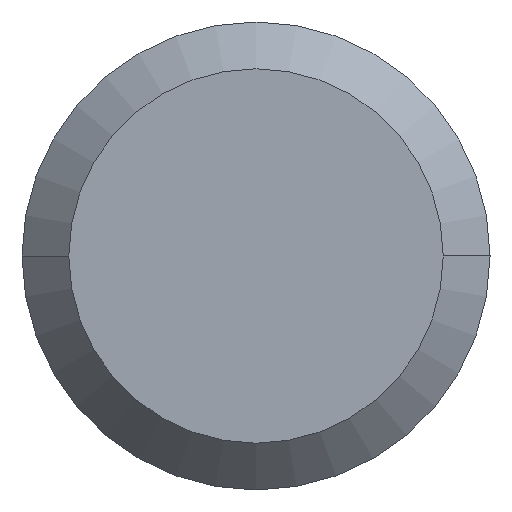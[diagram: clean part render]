
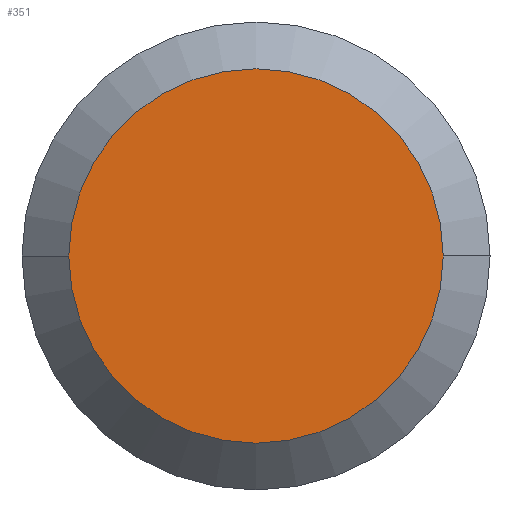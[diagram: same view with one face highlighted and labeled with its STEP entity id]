
A CAD part, left-side view. The second image highlights one B-rep face of the part: STEP entity #351.
In plain terms, the highlighted planar face has unit normal (-1, 0, 0).
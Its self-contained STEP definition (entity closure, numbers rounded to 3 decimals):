
#1 = CARTESIAN_POINT ( 'NONE',  ( 0., 0., 0. ) ) ;
#46 = FACE_OUTER_BOUND ( 'NONE', #212, .T. ) ;
#60 = DIRECTION ( 'NONE',  ( 0., -1., 0. ) ) ;
#77 = ORIENTED_EDGE ( 'NONE', *, *, #80, .F. ) ;
#80 = EDGE_CURVE ( 'NONE', #263, #175, #110, .T. ) ;
#86 = DIRECTION ( 'NONE',  ( -1., 0., 0. ) ) ;
#88 = DIRECTION ( 'NONE',  ( 0., 1., 0. ) ) ;
#110 = CIRCLE ( 'NONE', #349, 2.4 ) ;
#116 = PLANE ( 'NONE',  #154 ) ;
#138 = CARTESIAN_POINT ( 'NONE',  ( 0., 0., 0. ) ) ;
#154 = AXIS2_PLACEMENT_3D ( 'NONE', #138, #86, #60 ) ;
#175 = VERTEX_POINT ( 'NONE', #216 ) ;
#212 = EDGE_LOOP ( 'NONE', ( #233, #77 ) ) ;
#216 = CARTESIAN_POINT ( 'NONE',  ( 0., 2.4, 0. ) ) ;
#219 = DIRECTION ( 'NONE',  ( 1., 0., 0. ) ) ;
#227 = DIRECTION ( 'NONE',  ( 0., 1., 0. ) ) ;
#228 = AXIS2_PLACEMENT_3D ( 'NONE', #1, #295, #227 ) ;
#233 = ORIENTED_EDGE ( 'NONE', *, *, #359, .F. ) ;
#244 = CARTESIAN_POINT ( 'NONE',  ( 0., -2.4, 0. ) ) ;
#254 = CIRCLE ( 'NONE', #228, 2.4 ) ;
#263 = VERTEX_POINT ( 'NONE', #244 ) ;
#295 = DIRECTION ( 'NONE',  ( 1., 0., 0. ) ) ;
#311 = CARTESIAN_POINT ( 'NONE',  ( 0., 0., 0. ) ) ;
#349 = AXIS2_PLACEMENT_3D ( 'NONE', #311, #219, #88 ) ;
#351 = ADVANCED_FACE ( 'NONE', ( #46 ), #116, .T. ) ;
#359 = EDGE_CURVE ( 'NONE', #175, #263, #254, .T. ) ;
